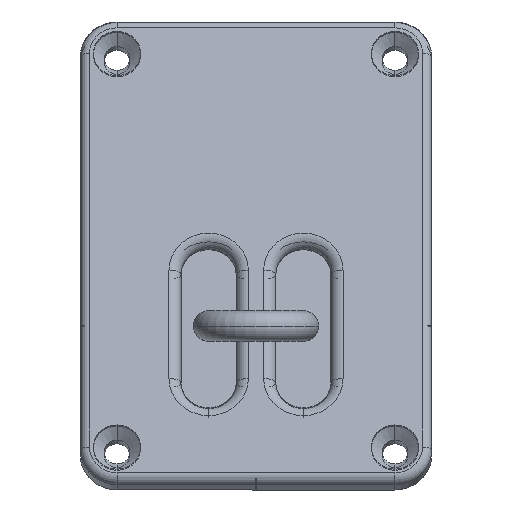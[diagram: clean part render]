
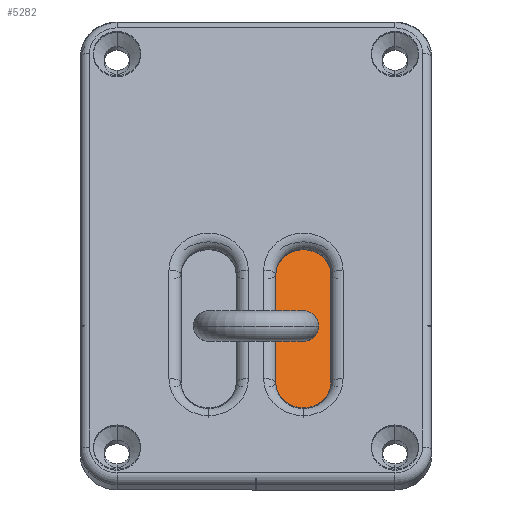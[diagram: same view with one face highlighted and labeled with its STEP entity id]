
A CAD part, left-side view. The second image highlights one B-rep face of the part: STEP entity #5282.
In plain terms, the highlighted planar face has unit normal (-0.934, 0, 0.358).
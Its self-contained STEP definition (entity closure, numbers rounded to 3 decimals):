
#252 = DIRECTION ( 'NONE',  ( -0.358, 0., -0.934 ) ) ;
#273 = CARTESIAN_POINT ( 'NONE',  ( 0., -20.5, 0. ) ) ;
#314 = VECTOR ( 'NONE', #2710, 1000. ) ;
#361 = CARTESIAN_POINT ( 'NONE',  ( 5.913, -28.5, 15.404 ) ) ;
#917 = VERTEX_POINT ( 'NONE', #7606 ) ;
#1065 = ORIENTED_EDGE ( 'NONE', *, *, #2429, .F. ) ;
#1109 = CARTESIAN_POINT ( 'NONE',  ( -3.839, -10.5, -10. ) ) ;
#1316 = EDGE_LOOP ( 'NONE', ( #10957, #6858, #3117, #3541, #10777 ) ) ;
#1328 = CARTESIAN_POINT ( 'NONE',  ( 0., -10.5, 0. ) ) ;
#1833 = VERTEX_POINT ( 'NONE', #4284 ) ;
#2154 = CARTESIAN_POINT ( 'NONE',  ( -7.705, -2.5, -20.072 ) ) ;
#2285 = EDGE_CURVE ( 'NONE', #917, #4053, #8148, .T. ) ;
#2392 = DIRECTION ( 'NONE',  ( -0.358, 0., -0.934 ) ) ;
#2429 = EDGE_CURVE ( 'NONE', #7561, #8839, #11095, .T. ) ;
#2512 = EDGE_LOOP ( 'NONE', ( #9795, #1065 ) ) ;
#2710 = DIRECTION ( 'NONE',  ( -0.358, 0., -0.934 ) ) ;
#2808 = CARTESIAN_POINT ( 'NONE',  ( 5.913, -28.5, 15.404 ) ) ;
#3117 = ORIENTED_EDGE ( 'NONE', *, *, #6389, .T. ) ;
#3541 = ORIENTED_EDGE ( 'NONE', *, *, #5358, .T. ) ;
#3543 = DIRECTION ( 'NONE',  ( -0.934, 0., 0.358 ) ) ;
#3889 = CARTESIAN_POINT ( 'NONE',  ( 0., -20.5, 0. ) ) ;
#3998 =( BOUNDED_CURVE ( )  B_SPLINE_CURVE ( 3, ( #4510, #1109, #6057, #273 ),
 .UNSPECIFIED., .F., .F. ) 
 B_SPLINE_CURVE_WITH_KNOTS ( ( 4, 4 ),
 ( 1.571, 4.712 ),
 .UNSPECIFIED. ) 
 CURVE ( )  GEOMETRIC_REPRESENTATION_ITEM ( )  RATIONAL_B_SPLINE_CURVE ( ( 1., 0.333, 0.333, 1. ) ) 
 REPRESENTATION_ITEM ( '' )  );
#4053 = VERTEX_POINT ( 'NONE', #7335 ) ;
#4230 = DIRECTION ( 'NONE',  ( -0.358, 0., -0.934 ) ) ;
#4284 = CARTESIAN_POINT ( 'NONE',  ( -7.705, -28.5, -20.072 ) ) ;
#4399 = AXIS2_PLACEMENT_3D ( 'NONE', #7524, #10571, #6323 ) ;
#4436 = CARTESIAN_POINT ( 'NONE',  ( -7.705, -15.5, -20.072 ) ) ;
#4510 = CARTESIAN_POINT ( 'NONE',  ( 0., -10.5, 0. ) ) ;
#4550 = LINE ( 'NONE', #2154, #314 ) ;
#5199 = CARTESIAN_POINT ( 'NONE',  ( 0., -20.5, 0. ) ) ;
#5246 = DIRECTION ( 'NONE',  ( 0.358, 0., 0.934 ) ) ;
#5282 = ADVANCED_FACE ( 'NONE', ( #5515, #9111 ), #9178, .F. ) ;
#5344 = CIRCLE ( 'NONE', #9266, 13. ) ;
#5358 = EDGE_CURVE ( 'NONE', #1833, #10394, #11090, .T. ) ;
#5515 = FACE_BOUND ( 'NONE', #2512, .T. ) ;
#5938 = EDGE_CURVE ( 'NONE', #8839, #7561, #3998, .T. ) ;
#5963 = CARTESIAN_POINT ( 'NONE',  ( 3.839, -20.5, 10. ) ) ;
#6057 = CARTESIAN_POINT ( 'NONE',  ( -3.839, -20.5, -10. ) ) ;
#6323 = DIRECTION ( 'NONE',  ( 0.358, 0., 0.934 ) ) ;
#6389 = EDGE_CURVE ( 'NONE', #4053, #1833, #5344, .T. ) ;
#6858 = ORIENTED_EDGE ( 'NONE', *, *, #2285, .T. ) ;
#7335 = CARTESIAN_POINT ( 'NONE',  ( -12.364, -15.5, -32.209 ) ) ;
#7524 = CARTESIAN_POINT ( 'NONE',  ( -18.042, 47., -47. ) ) ;
#7561 = VERTEX_POINT ( 'NONE', #5199 ) ;
#7606 = CARTESIAN_POINT ( 'NONE',  ( -7.705, -2.5, -20.072 ) ) ;
#7792 = VECTOR ( 'NONE', #5246, 1000. ) ;
#8018 = CARTESIAN_POINT ( 'NONE',  ( 5.913, -15.5, 15.404 ) ) ;
#8077 = CIRCLE ( 'NONE', #11066, 13. ) ;
#8148 = CIRCLE ( 'NONE', #9395, 13. ) ;
#8839 = VERTEX_POINT ( 'NONE', #1328 ) ;
#9111 = FACE_OUTER_BOUND ( 'NONE', #1316, .T. ) ;
#9178 = PLANE ( 'NONE',  #4399 ) ;
#9266 = AXIS2_PLACEMENT_3D ( 'NONE', #9747, #3543, #4230 ) ;
#9395 = AXIS2_PLACEMENT_3D ( 'NONE', #4436, #10225, #252 ) ;
#9439 = EDGE_CURVE ( 'NONE', #10394, #10844, #8077, .T. ) ;
#9747 = CARTESIAN_POINT ( 'NONE',  ( -7.705, -15.5, -20.072 ) ) ;
#9795 = ORIENTED_EDGE ( 'NONE', *, *, #5938, .F. ) ;
#9917 = DIRECTION ( 'NONE',  ( -0.934, 0., 0.358 ) ) ;
#10225 = DIRECTION ( 'NONE',  ( -0.934, 0., 0.358 ) ) ;
#10313 = CARTESIAN_POINT ( 'NONE',  ( 0., -10.5, 0. ) ) ;
#10336 = CARTESIAN_POINT ( 'NONE',  ( 5.913, -2.5, 15.404 ) ) ;
#10394 = VERTEX_POINT ( 'NONE', #2808 ) ;
#10570 = EDGE_CURVE ( 'NONE', #10844, #917, #4550, .T. ) ;
#10571 = DIRECTION ( 'NONE',  ( 0.934, 0., -0.358 ) ) ;
#10777 = ORIENTED_EDGE ( 'NONE', *, *, #9439, .T. ) ;
#10844 = VERTEX_POINT ( 'NONE', #10336 ) ;
#10957 = ORIENTED_EDGE ( 'NONE', *, *, #10570, .T. ) ;
#11035 = CARTESIAN_POINT ( 'NONE',  ( 3.839, -10.5, 10. ) ) ;
#11066 = AXIS2_PLACEMENT_3D ( 'NONE', #8018, #9917, #2392 ) ;
#11090 = LINE ( 'NONE', #361, #7792 ) ;
#11095 =( BOUNDED_CURVE ( )  B_SPLINE_CURVE ( 3, ( #3889, #5963, #11035, #10313 ),
 .UNSPECIFIED., .F., .F. ) 
 B_SPLINE_CURVE_WITH_KNOTS ( ( 4, 4 ),
 ( 4.712, 7.854 ),
 .UNSPECIFIED. ) 
 CURVE ( )  GEOMETRIC_REPRESENTATION_ITEM ( )  RATIONAL_B_SPLINE_CURVE ( ( 1., 0.333, 0.333, 1. ) ) 
 REPRESENTATION_ITEM ( '' )  );
